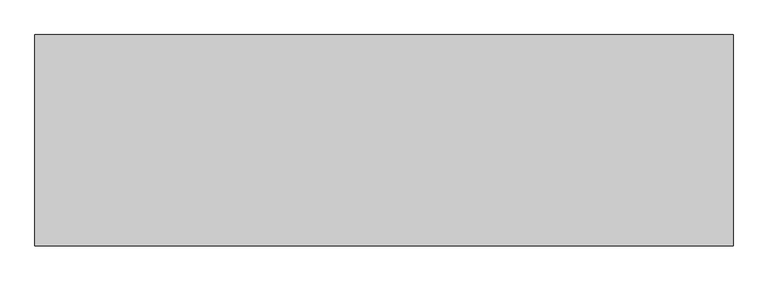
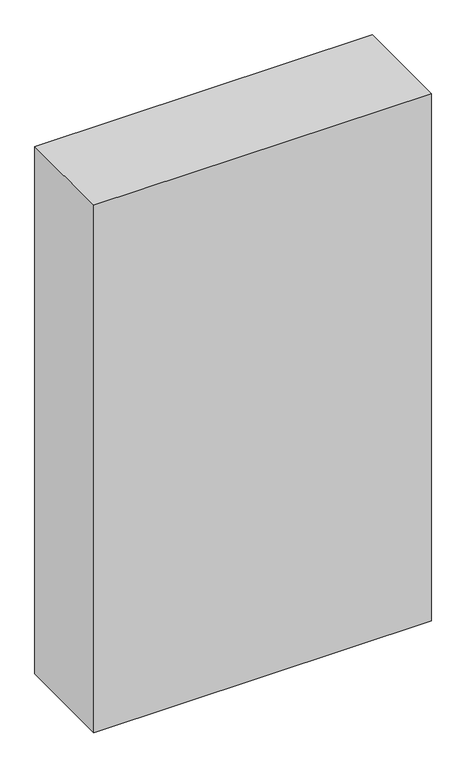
"""IFC4 building model written with IfcOpenShell, lengths in millimetres: proxy geometry."""

from ifc_helpers import new_model, si_unit, origin, origin_with_axes, place, context, project, spatial, polyline, outline, extrude, source, transform, mapped, element, save


def generic_models_19677a52(model_context):
    return source(origin(), model_context, "Body", "SweptSolid", [
        extrude(outline(polyline([(1512.6976032, -228.9), (0.0, -228.9), (0.0, 228.9), (1512.6976032, 228.9), (1512.6976032, -228.9)])), origin_with_axes(), (0.0, 0.0, 1.0), 2500.0),
    ])


if __name__ == "__main__":
    model = new_model("IFC4")
    model_context = context("Model", 3, world=origin())
    ifc_project = project(units=[si_unit("LENGTHUNIT", "METRE", prefix="MILLI")], contexts=[model_context])
    site = spatial("IfcSite", under=ifc_project)
    building = spatial("IfcBuilding", under=site)
    placement = place(None, origin())
    generic_models_shape = generic_models_19677a52(model_context)
    element("IfcBuildingElementProxy", 1, Name="Generic Models", at=placement, inside=building, context=model_context, shape_type="MappedRepresentation", body=[
        mapped(generic_models_shape, transform((0.0, 0.0, 0.0), x_axis=(1.0, 0.0, 0.0), y_axis=(0.0, 1.0, 0.0), z_axis=(0.0, 0.0, 1.0))),
    ])
    save(model, "model.ifc")
